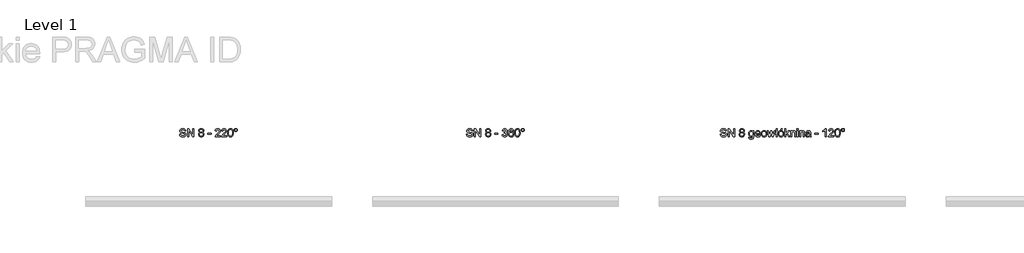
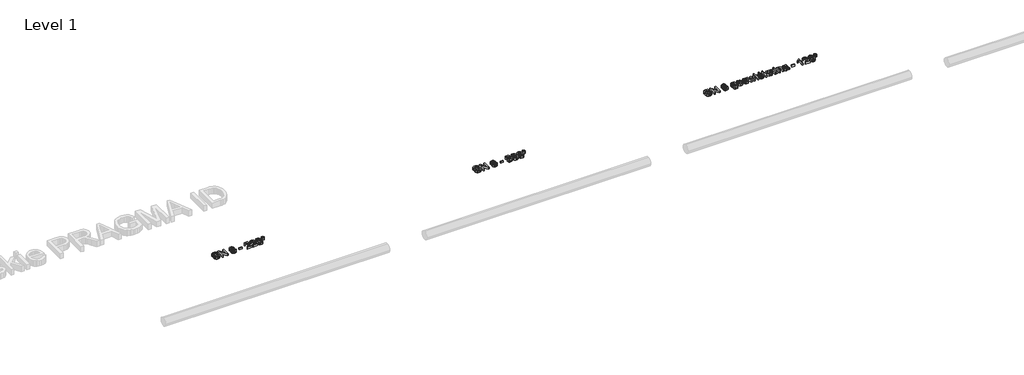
# One storey, part 6 of 10: 3 proxies.
"""IFC4 building model written with IfcOpenShell, lengths in millimetres."""

import ifcopenshell
import ifcopenshell.guid

model = None  # the IFC model being written
_history = None  # IfcOwnerHistory: only IFC2X3 demands one
_inside = {}  # id of a spatial element -> (the spatial element, [elements in it])
_under = {}  # id of a project, library or spatial element -> (it, [spatial elements below it])
_declared = {}  # id of a project -> (the project, [libraries it declares])
_typed = {}  # id of a type object -> (the type object, [elements of that type])
_made_of = {}  # id of a material, layer set ... -> (it, [elements and type objects made of it])


def new_model(schema):
    """Start an empty IFC model of exactly this schema.

    Asked for "IFC4X3", IfcOpenShell would pick the latest addendum, in which some entities
    have other attributes; the version numbers below select the first issue.
    IFC2X3 requires an IfcOwnerHistory on every rooted entity: one is made here for all.
    """
    global model, _history
    if schema == "IFC4X3":
        model = ifcopenshell.file(schema_version=(4, 3, 0, 0))
    else:
        model = ifcopenshell.file(schema=schema)
    _inside.clear()
    _under.clear()
    _declared.clear()
    _typed.clear()
    _made_of.clear()
    _history = None
    if model.schema == "IFC2X3":
        org = make("IfcOrganization", Name="unknown")
        user = make(
            "IfcPersonAndOrganization",
            ThePerson=make("IfcPerson", FamilyName="unknown"),
            TheOrganization=org,
        )
        app = make(
            "IfcApplication",
            ApplicationDeveloper=org,
            Version="unknown",
            ApplicationFullName="unknown",
            ApplicationIdentifier="unknown",
        )
        _history = make(
            "IfcOwnerHistory",
            OwningUser=user,
            OwningApplication=app,
            ChangeAction="ADDED",
            CreationDate=0,
        )
    return model


def make(cls, **values):
    """One entity of the class cls with the attributes given. An attribute that is None is left unset."""
    return model.create_entity(
        cls, **{name: value for name, value in values.items() if value is not None}
    )


def rooted(cls, **values):
    """An entity with a GlobalId (a new one), such as an element, a storey or a relation."""
    return make(cls, GlobalId=ifcopenshell.guid.new(), OwnerHistory=_history, **values)


def si_unit(unit_type, name, prefix=None):
    """IfcSIUnit, for example si_unit("LENGTHUNIT", "METRE", prefix="MILLI")."""
    return make("IfcSIUnit", UnitType=unit_type, Prefix=prefix, Name=name)


def assignment(units):
    """IfcUnitAssignment: the units of a project."""
    return None if units is None else make("IfcUnitAssignment", Units=units)


def point(xyz):
    """IfcCartesianPoint."""
    return None if xyz is None else make("IfcCartesianPoint", Coordinates=xyz)


def direction(xyz):
    """IfcDirection."""
    return None if xyz is None else make("IfcDirection", DirectionRatios=xyz)


def frame(location, z_axis=None, x_axis=None):
    """IfcAxis2Placement3D, a coordinate frame: its origin and axes. An axis left out is left unset."""
    return make(
        "IfcAxis2Placement3D",
        Location=point(location),
        Axis=direction(z_axis),
        RefDirection=direction(x_axis),
    )


def origin():
    """The frame at (0, 0, 0) with its axes left unset."""
    return frame((0.0, 0.0, 0.0))


def origin_with_axes():
    """The frame at (0, 0, 0) with the z axis (0, 0, 1) and the x axis (1, 0, 0) written out."""
    return frame((0.0, 0.0, 0.0), z_axis=(0.0, 0.0, 1.0), x_axis=(1.0, 0.0, 0.0))


def place(relative_to, where):
    """IfcLocalPlacement: puts the frame where relative to a parent placement (None: the world)."""
    return make(
        "IfcLocalPlacement", PlacementRelTo=relative_to, RelativePlacement=where
    )


def context(
    kind, dimensions, precision=None, world=None, true_north=None, identifier=None
):
    """IfcGeometricRepresentationContext, for example the 3D "Model" context."""
    return make(
        "IfcGeometricRepresentationContext",
        ContextIdentifier=identifier,
        ContextType=kind,
        CoordinateSpaceDimension=dimensions,
        Precision=precision,
        WorldCoordinateSystem=world,
        TrueNorth=true_north,
    )


def project(units=None, contexts=None):
    """IfcProject with its units and contexts."""
    return rooted(
        "IfcProject",
        Name="project",
        RepresentationContexts=contexts,
        UnitsInContext=assignment(units),
    )


def spatial(cls, under=None, at=None, **own):
    """A site, building, storey or space (cls), placed at a placement, below another one or the project."""
    s = rooted(cls, ObjectPlacement=at, **own)
    if under is not None:
        _under.setdefault(under.id(), (under, []))[1].append(s)
    return s


def polyline(points):
    """IfcPolyline through the points."""
    return make("IfcPolyline", Points=[point(p) for p in points])


def outline(outer, holes=None, kind="AREA"):
    """IfcArbitraryClosedProfileDef: a profile drawn as a closed curve; with holes, ...WithVoids."""
    if holes is None:
        return make("IfcArbitraryClosedProfileDef", ProfileType=kind, OuterCurve=outer)
    return make(
        "IfcArbitraryProfileDefWithVoids",
        ProfileType=kind,
        OuterCurve=outer,
        InnerCurves=holes,
    )


def extrude(swept, where, along, depth):
    """IfcExtrudedAreaSolid: the profile swept, set in the frame where, extruded along a direction by depth."""
    return make(
        "IfcExtrudedAreaSolid",
        SweptArea=swept,
        Position=where,
        ExtrudedDirection=direction(along),
        Depth=depth,
    )


def shape(context_of_items, identifier, shape_type, items):
    """IfcShapeRepresentation: the items that make up one representation, for example the "Body"."""
    return make(
        "IfcShapeRepresentation",
        ContextOfItems=context_of_items,
        RepresentationIdentifier=identifier,
        RepresentationType=shape_type,
        Items=items,
    )


def made_of(thing, what):
    """Note that an element or type object is made of a material, layer set ...; save() writes the relation."""
    if what is not None:
        _made_of.setdefault(what.id(), (what, []))[1].append(thing)
    return thing


def element(
    cls,
    number,
    at=None,
    inside=None,
    cuts=None,
    type_object=None,
    material=None,
    context=None,
    identifier="Body",
    shape_type=None,
    held_by="IfcProductDefinitionShape",
    body=None,
    shapes=None,
    **own,
):
    """One element of the class cls, such as IfcWall. Its Tag is "e" and its number.

    at: its placement. inside: the storey or other place that contains it. cuts: it is an
    opening in that element (IfcRelVoidsElement). A single representation is given by context,
    identifier, shape_type and body (its items); several are given by shapes. held_by: the class
    of the entity that holds the representations. save() writes the other relations.
    """
    e = rooted(cls, Tag="e%d" % number, ObjectPlacement=at, **own)
    if body is not None:
        shapes = [shape(context, identifier, shape_type, body)]
    if shapes is not None:
        e.Representation = make(held_by, Representations=shapes)
    if inside is not None:
        _inside.setdefault(inside.id(), (inside, []))[1].append(e)
    if cuts is not None:
        rooted(
            "IfcRelVoidsElement", RelatingBuildingElement=cuts, RelatedOpeningElement=e
        )
    if type_object is not None:
        _typed.setdefault(type_object.id(), (type_object, []))[1].append(e)
    return made_of(e, material)


def aggregate(whole, parts):
    """IfcRelAggregates: a whole, such as a stair, and the parts it consists of."""
    return rooted("IfcRelAggregates", RelatingObject=whole, RelatedObjects=parts)


def save(model, path):
    """Write the relations noted so far, then the file.

    IfcRelAggregates (storeys below a building ...), IfcRelContainedInSpatialStructure (elements
    in a storey), IfcRelDefinesByType, IfcRelAssociatesMaterial and IfcRelDeclares: one each for
    every whole, place, type object, material and project.
    """
    for whole, parts in _under.values():
        aggregate(whole, parts)
    for where, things in _inside.values():
        rooted(
            "IfcRelContainedInSpatialStructure",
            RelatedElements=things,
            RelatingStructure=where,
        )
    for kind, things in _typed.values():
        rooted("IfcRelDefinesByType", RelatedObjects=things, RelatingType=kind)
    for what, things in _made_of.values():
        rooted("IfcRelAssociatesMaterial", RelatedObjects=things, RelatingMaterial=what)
    for by, libraries in _declared.values():
        rooted("IfcRelDeclares", RelatingContext=by, RelatedDefinitions=libraries)
    model.write(path)


model = new_model("IFC4")

# Units and contexts
model_context = context("Model", 3, world=origin())
ifc_project = project(units=[si_unit("LENGTHUNIT", "METRE", prefix="MILLI")], contexts=[model_context])

# Site, building, storey
site = spatial("IfcSite", under=ifc_project)
building = spatial("IfcBuilding", under=site)
storey = spatial("IfcBuildingStorey", under=building, Name="Level 1", Elevation=0.0)

# Proxies
placement = place(None, origin())
element("IfcBuildingElementProxy", 1, Name="200mm Arial", ObjectType="200mm Arial", at=placement, inside=storey, context=model_context, shape_type="SweptSolid", body=[
    extrude(outline(polyline([(-7742.1398156, 2231.0128426), (-7717.0257381, 2231.0128426), (-7708.9323342, 2205.8742396), (-7700.8021421, 2196.983758), (-7689.1648083, 2189.9817374), (-7674.9400379, 2185.4383947), (-7659.0475357, 2183.9239472), (-7632.8052867, 2188.5102094), (-7615.8581894, 2201.1162991), (-7610.2909086, 2217.9652945), (-7614.4602379, 2233.6370675), (-7620.8123336, 2239.8358791), (-7631.5299624, 2245.0414093), (-7668.0974328, 2254.6308667), (-7707.4608062, 2267.0162272), (-7719.9626627, 2275.4652503), (-7728.8224874, 2285.7046325), (-7734.1015941, 2297.5136446), (-7735.8612963, 2310.6715573), (-7733.6846611, 2325.3807057), (-7727.1547557, 2339.0965728), (-7716.4432583, 2350.7216438), (-7701.7218471, 2359.1584042), (-7684.0512486, 2364.2903581), (-7664.4921892, 2366.0010093), (-7643.3021863, 2364.2106503), (-7624.7609337, 2358.8395732), (-7609.5306191, 2349.9981425), (-7598.2734301, 2337.796723), (-7591.1487821, 2322.9956041), (-7588.3160907, 2306.3550752), (-7613.4301683, 2306.3550752), (-7618.0409559, 2321.3401351), (-7627.6549387, 2332.1558658), (-7642.6767869, 2338.7041653), (-7663.5111705, 2340.8869318), (-7684.8360635, 2338.7286908), (-7699.4655042, 2332.2539676), (-7707.9267901, 2322.725824), (-7710.7472187, 2311.4073212), (-7708.7483932, 2301.7565502), (-7702.7519167, 2293.9942401), (-7688.5761971, 2287.0535332), (-7661.745337, 2279.9656734), (-7617.305192, 2267.3595837), (-7602.988451, 2258.2483729), (-7593.0004548, 2247.0034466), (-7587.132737, 2233.7474321), (-7585.176831, 2218.6029566), (-7587.4270426, 2203.121256), (-7594.1776772, 2188.5592603), (-7605.1528234, 2176.026747), (-7620.0765696, 2166.6334934), (-7638.0230796, 2160.7657756), (-7658.066517, 2158.8098696), (-7682.6716911, 2160.9190598), (-7702.923595, 2167.2466301), (-7719.0552205, 2177.8171061), (-7731.2995595, 2192.6550132), (-7739.1599715, 2210.7302819), (-7742.1398156, 2231.0128426)])), origin_with_axes(), (0.0, 0.0, 1.0), 50.0),
    extrude(outline(polyline([(-7547.5057147, 2161.9491293), (-7547.5057147, 2362.8617496), (-7520.6258036, 2362.8617496), (-7415.6568077, 2203.6914731), (-7415.6568077, 2362.8617496), (-7390.5427301, 2362.8617496), (-7390.5427301, 2161.9491293), (-7417.4226412, 2161.9491293), (-7522.3916372, 2321.1684569), (-7522.3916372, 2161.9491293), (-7547.5057147, 2161.9491293)])), origin_with_axes(), (0.0, 0.0, 1.0), 50.0),
    extrude(outline(polyline([(-7240.9373854, 2272.6080335), (-7254.3834723, 2279.2299094), (-7263.8196455, 2288.2062301), (-7269.3930577, 2299.3530545), (-7271.2508618, 2312.4864418), (-7267.2041599, 2332.1190776), (-7255.064054, 2348.3426736), (-7236.1917077, 2359.2319806), (-7211.9482842, 2362.8617496), (-7187.5577079, 2359.1461415), (-7168.4401069, 2347.999317), (-7156.0792719, 2331.5182037), (-7151.9589935, 2311.7997287), (-7153.7922721, 2299.0894058), (-7159.292108, 2288.1326537), (-7168.5198147, 2279.2115153), (-7181.5367059, 2272.6080335), (-7166.0795308, 2264.6433883), (-7154.8284731, 2252.914084), (-7147.9674739, 2237.9842064), (-7145.6804741, 2220.4178411), (-7150.2176854, 2196.4074096), (-7163.8293192, 2176.5663073), (-7184.8476439, 2163.2489791), (-7211.6049277, 2158.8098696), (-7238.3622115, 2163.2673732), (-7259.3805361, 2176.6398837), (-7272.9921699, 2196.6710583), (-7277.5293812, 2221.1045542), (-7275.150411, 2239.3515011), (-7268.0135003, 2254.3610865), (-7256.4865311, 2265.6182756), (-7240.9373854, 2272.6080335)]), holes=[polyline([(-7246.1367843, 2311.7506778), (-7243.9110982, 2300.7877943), (-7237.23404, 2292.0322028), (-7226.3018134, 2286.2932437), (-7211.3106221, 2284.3802573), (-7196.6689187, 2286.280981), (-7185.9022389, 2291.9831519), (-7179.280363, 2300.4444378), (-7177.0730711, 2310.6225063), (-7179.3539394, 2321.186851), (-7186.1965445, 2329.9240483), (-7197.1103771, 2335.7917662), (-7211.6049277, 2337.7476721), (-7226.1914488, 2335.8346857), (-7237.0868872, 2330.0957266), (-7243.87431, 2321.6834916), (-7246.1367843, 2311.7506778)]), polyline([(-7252.4153037, 2221.987471), (-7248.2214489, 2203.0783364), (-7242.4150448, 2194.9665384), (-7233.3835418, 2188.9271423), (-7211.4087239, 2183.9239472), (-7194.3144739, 2186.5543035), (-7181.487655, 2194.4453722), (-7173.4678275, 2206.3954057), (-7170.7945517, 2221.202656), (-7173.5536666, 2236.2612924), (-7181.8310115, 2248.4749746), (-7194.952136, 2256.5683785), (-7212.2425898, 2259.2661798), (-7229.0977165, 2256.6051667), (-7241.7957767, 2248.6221274), (-7249.7604219, 2236.6414371), (-7252.4153037, 2221.987471)])]), origin_with_axes(), (0.0, 0.0, 1.0), 50.0),
    extrude(outline(polyline([(-7051.5026834, 2221.5950635), (-7051.5026834, 2246.709141), (-6973.0211911, 2246.709141), (-6973.0211911, 2221.5950635), (-7051.5026834, 2221.5950635)])), origin_with_axes(), (0.0, 0.0, 1.0), 50.0),
    extrude(outline(polyline([(-6743.8552335, 2187.0632069), (-6743.8552335, 2161.9491293), (-6875.7041406, 2161.9491293), (-6873.0063393, 2179.2641086), (-6857.7514992, 2205.9232905), (-6826.3098514, 2235.0350191), (-6782.9488269, 2276.8754646), (-6774.8186348, 2291.2964388), (-6772.1085708, 2305.3250056), (-6774.6653506, 2317.9004385), (-6782.3356902, 2328.3544185), (-6794.1263082, 2335.3993587), (-6809.0439231, 2337.7476721), (-6824.7095647, 2335.454541), (-6836.8803274, 2328.5751477), (-6844.734608, 2317.6490524), (-6847.4508034, 2303.2158155), (-6872.5648809, 2306.3550752), (-6866.4764339, 2330.6475496), (-6853.3123898, 2348.3917245), (-6833.7594618, 2359.2442434), (-6808.5043628, 2362.8617496), (-6783.0653229, 2358.8395732), (-6763.549183, 2346.7730437), (-6751.1331657, 2328.746826), (-6746.9944932, 2306.8455845), (-6751.4581281, 2283.0313567), (-6766.2960352, 2258.4077885), (-6802.2748944, 2223.9985592), (-6831.1658937, 2199.8409748), (-6842.4966592, 2187.0632069), (-6743.8552335, 2187.0632069)])), origin_with_axes(), (0.0, 0.0, 1.0), 50.0),
    extrude(outline(polyline([(-6590.0315086, 2187.0632069), (-6590.0315086, 2161.9491293), (-6721.8804157, 2161.9491293), (-6719.1826144, 2179.2641086), (-6703.9277743, 2205.9232905), (-6672.4861265, 2235.0350191), (-6629.125102, 2276.8754646), (-6620.9949099, 2291.2964388), (-6618.2848458, 2305.3250056), (-6620.8416257, 2317.9004385), (-6628.5119653, 2328.3544185), (-6640.3025833, 2335.3993587), (-6655.2201982, 2337.7476721), (-6670.8858398, 2335.454541), (-6683.0566025, 2328.5751477), (-6690.9108831, 2317.6490524), (-6693.6270785, 2303.2158155), (-6718.741156, 2306.3550752), (-6712.652709, 2330.6475496), (-6699.4886649, 2348.3917245), (-6679.9357369, 2359.2442434), (-6654.6806379, 2362.8617496), (-6629.2415979, 2358.8395732), (-6609.7254581, 2346.7730437), (-6597.3094408, 2328.746826), (-6593.1707683, 2306.8455845), (-6597.6344032, 2283.0313567), (-6612.4723103, 2258.4077885), (-6648.4511695, 2223.9985592), (-6677.3421688, 2199.8409748), (-6688.6729343, 2187.0632069), (-6590.0315086, 2187.0632069)])), origin_with_axes(), (0.0, 0.0, 1.0), 50.0),
    extrude(outline(polyline([(-6564.9174311, 2260.7867587), (-6563.0718897, 2292.9457765), (-6557.5352657, 2318.5932829), (-6548.3627413, 2338.1216855), (-6535.6094988, 2351.9233917), (-6519.1835677, 2360.1271601), (-6498.9929775, 2362.8617496), (-6483.5174083, 2361.2430689), (-6469.6605198, 2356.3870265), (-6458.0722369, 2348.483695), (-6449.4024846, 2337.7231466), (-6437.6302608, 2307.9982814), (-6433.068524, 2260.7867587), (-6434.8956713, 2228.811682), (-6440.377113, 2203.2254892), (-6449.4944551, 2183.6786925), (-6462.2293035, 2169.821804), (-6478.6920228, 2161.5628532), (-6498.9929775, 2158.8098696), (-6525.0880737, 2163.5923356), (-6544.9046505, 2177.9397334), (-6553.660242, 2193.0688805), (-6559.9142359, 2211.919767), (-6564.9174311, 2260.7867587)]), holes=[polyline([(-6539.8033535, 2260.8358096), (-6536.8602976, 2221.3314147), (-6528.0311297, 2198.4675487), (-6514.8854797, 2187.5598476), (-6498.9929775, 2183.9239472), (-6483.1004754, 2187.5721103), (-6469.9548254, 2198.5165997), (-6461.1256575, 2221.3927284), (-6458.1826015, 2260.8358096), (-6461.0275556, 2299.4511564), (-6469.5624179, 2322.492832), (-6482.6835424, 2333.9339621), (-6499.2872831, 2337.7476721), (-6515.0081071, 2334.3876832), (-6527.6387222, 2324.3077165), (-6536.7621957, 2299.8313011), (-6539.8033535, 2260.8358096)])]), origin_with_axes(), (0.0, 0.0, 1.0), 50.0),
    extrude(outline(polyline([(-6404.8151868, 2328.378944), (-6402.0499405, 2342.8612318), (-6393.7542015, 2355.0136004), (-6381.5834388, 2363.2541571), (-6367.1931214, 2366.0010093), (-6352.6372571, 2363.2541571), (-6340.4603631, 2355.0136004), (-6332.2198064, 2342.8612318), (-6329.4729542, 2328.378944), (-6332.2382005, 2313.9150502), (-6340.5339395, 2301.719762), (-6352.7292276, 2293.4240231), (-6367.1931214, 2290.6587767), (-6381.5834388, 2293.405629), (-6393.7542015, 2301.6461856), (-6402.0499405, 2313.8230797), (-6404.8151868, 2328.378944)]), holes=[polyline([(-6389.1188883, 2328.329893), (-6387.5063389, 2319.8808699), (-6382.6686907, 2312.7807474), (-6375.5501741, 2307.9614932), (-6367.0950195, 2306.3550752), (-6358.7134414, 2307.9614932), (-6351.6194503, 2312.7807474), (-6346.781802, 2319.8808699), (-6345.1692526, 2328.329893), (-6346.781802, 2336.7789162), (-6351.6194503, 2343.8790387), (-6358.7134414, 2348.6982928), (-6367.0950195, 2350.3047109), (-6375.5501741, 2348.6982928), (-6382.6686907, 2343.8790387), (-6387.5063389, 2336.7789162), (-6389.1188883, 2328.329893)])]), origin_with_axes(), (0.0, 0.0, 1.0), 50.0),
])
element("IfcBuildingElementProxy", 2, Name="200mm Arial", ObjectType="200mm Arial", at=placement, inside=storey, context=model_context, shape_type="SweptSolid", body=[
    extrude(outline(polyline([(-742.1398156, 2231.0128426), (-717.0257381, 2231.0128426), (-708.9323342, 2205.8742396), (-700.8021421, 2196.983758), (-689.1648083, 2189.9817374), (-674.9400379, 2185.4383947), (-659.0475357, 2183.9239472), (-632.8052867, 2188.5102094), (-615.8581894, 2201.1162991), (-610.2909086, 2217.9652945), (-614.4602379, 2233.6370675), (-620.8123336, 2239.8358791), (-631.5299624, 2245.0414093), (-668.0974328, 2254.6308667), (-707.4608062, 2267.0162272), (-719.9626627, 2275.4652503), (-728.8224874, 2285.7046325), (-734.1015941, 2297.5136446), (-735.8612963, 2310.6715573), (-733.6846611, 2325.3807057), (-727.1547557, 2339.0965728), (-716.4432583, 2350.7216438), (-701.7218471, 2359.1584042), (-684.0512486, 2364.2903581), (-664.4921892, 2366.0010093), (-643.3021863, 2364.2106503), (-624.7609337, 2358.8395732), (-609.5306191, 2349.9981425), (-598.2734301, 2337.796723), (-591.1487821, 2322.9956041), (-588.3160907, 2306.3550752), (-613.4301683, 2306.3550752), (-618.0409559, 2321.3401351), (-627.6549387, 2332.1558658), (-642.6767869, 2338.7041653), (-663.5111705, 2340.8869318), (-684.8360635, 2338.7286908), (-699.4655042, 2332.2539676), (-707.9267901, 2322.725824), (-710.7472187, 2311.4073212), (-708.7483932, 2301.7565502), (-702.7519167, 2293.9942401), (-688.5761971, 2287.0535332), (-661.745337, 2279.9656734), (-617.305192, 2267.3595837), (-602.988451, 2258.2483729), (-593.0004548, 2247.0034466), (-587.132737, 2233.7474321), (-585.176831, 2218.6029566), (-587.4270426, 2203.121256), (-594.1776772, 2188.5592603), (-605.1528234, 2176.026747), (-620.0765696, 2166.6334934), (-638.0230796, 2160.7657756), (-658.066517, 2158.8098696), (-682.6716911, 2160.9190598), (-702.923595, 2167.2466301), (-719.0552205, 2177.8171061), (-731.2995595, 2192.6550132), (-739.1599715, 2210.7302819), (-742.1398156, 2231.0128426)])), origin_with_axes(), (0.0, 0.0, 1.0), 50.0),
    extrude(outline(polyline([(-547.5057147, 2161.9491293), (-547.5057147, 2362.8617496), (-520.6258036, 2362.8617496), (-415.6568077, 2203.6914731), (-415.6568077, 2362.8617496), (-390.5427301, 2362.8617496), (-390.5427301, 2161.9491293), (-417.4226412, 2161.9491293), (-522.3916372, 2321.1684569), (-522.3916372, 2161.9491293), (-547.5057147, 2161.9491293)])), origin_with_axes(), (0.0, 0.0, 1.0), 50.0),
    extrude(outline(polyline([(-240.9373854, 2272.6080335), (-254.3834723, 2279.2299094), (-263.8196455, 2288.2062301), (-269.3930577, 2299.3530545), (-271.2508618, 2312.4864418), (-267.2041599, 2332.1190776), (-255.064054, 2348.3426736), (-236.1917077, 2359.2319806), (-211.9482842, 2362.8617496), (-187.5577079, 2359.1461415), (-168.4401069, 2347.999317), (-156.0792719, 2331.5182037), (-151.9589935, 2311.7997287), (-153.7922721, 2299.0894058), (-159.292108, 2288.1326537), (-168.5198147, 2279.2115153), (-181.5367059, 2272.6080335), (-166.0795308, 2264.6433883), (-154.8284731, 2252.914084), (-147.9674739, 2237.9842064), (-145.6804741, 2220.4178411), (-150.2176854, 2196.4074096), (-163.8293192, 2176.5663073), (-184.8476439, 2163.2489791), (-211.6049277, 2158.8098696), (-238.3622115, 2163.2673732), (-259.3805361, 2176.6398837), (-272.9921699, 2196.6710583), (-277.5293812, 2221.1045542), (-275.150411, 2239.3515011), (-268.0135003, 2254.3610865), (-256.4865311, 2265.6182756), (-240.9373854, 2272.6080335)]), holes=[polyline([(-246.1367843, 2311.7506778), (-243.9110982, 2300.7877943), (-237.23404, 2292.0322028), (-226.3018134, 2286.2932437), (-211.3106221, 2284.3802573), (-196.6689187, 2286.280981), (-185.9022389, 2291.9831519), (-179.280363, 2300.4444378), (-177.0730711, 2310.6225063), (-179.3539394, 2321.186851), (-186.1965445, 2329.9240483), (-197.1103771, 2335.7917662), (-211.6049277, 2337.7476721), (-226.1914488, 2335.8346857), (-237.0868872, 2330.0957266), (-243.87431, 2321.6834916), (-246.1367843, 2311.7506778)]), polyline([(-252.4153037, 2221.987471), (-248.2214489, 2203.0783364), (-242.4150448, 2194.9665384), (-233.3835418, 2188.9271423), (-211.4087239, 2183.9239472), (-194.3144739, 2186.5543035), (-181.487655, 2194.4453722), (-173.4678275, 2206.3954057), (-170.7945517, 2221.202656), (-173.5536666, 2236.2612924), (-181.8310115, 2248.4749746), (-194.952136, 2256.5683785), (-212.2425898, 2259.2661798), (-229.0977165, 2256.6051667), (-241.7957767, 2248.6221274), (-249.7604219, 2236.6414371), (-252.4153037, 2221.987471)])]), origin_with_axes(), (0.0, 0.0, 1.0), 50.0),
    extrude(outline(polyline([(-51.5026834, 2221.5950635), (-51.5026834, 2246.709141), (26.9788089, 2246.709141), (26.9788089, 2221.5950635), (-51.5026834, 2221.5950635)])), origin_with_axes(), (0.0, 0.0, 1.0), 50.0),
    extrude(outline(polyline([(127.4351191, 2215.3165441), (152.5491966, 2218.4558038), (158.1716598, 2202.6736662), (166.4060851, 2192.0173511), (177.6571428, 2185.9472982), (192.329503, 2183.9239472), (209.5463804, 2186.7075876), (222.8391832, 2195.0585089), (231.3372573, 2207.5174458), (234.1699486, 2222.6251331), (231.3617827, 2236.9663995), (222.937285, 2248.5976019), (210.1840425, 2256.3047297), (194.3896422, 2258.8737723), (176.7803574, 2256.1269201), (179.5762605, 2281.2409976), (183.598437, 2280.946692), (198.6448106, 2282.7493138), (212.0970289, 2288.1571792), (221.5883844, 2297.3051781), (224.7521695, 2310.3282007), (222.4590384, 2321.1745882), (215.5796451, 2329.9730993), (205.0827455, 2335.8040289), (191.9370956, 2337.7476721), (178.7669201, 2335.7856348), (168.0002404, 2329.8995229), (160.1398285, 2320.0893363), (155.6884563, 2306.3550752), (130.5743788, 2309.4943349), (137.9688069, 2332.0455012), (151.1267196, 2348.8822338), (169.1284119, 2359.3668707), (191.0541788, 2362.8617496), (206.8424477, 2361.1388356), (221.3431297, 2355.9700936), (233.5690747, 2347.815376), (242.5331326, 2337.1345354), (248.0329685, 2324.8288827), (249.8662471, 2311.7997287), (248.124939, 2299.6596229), (242.9010146, 2288.6476885), (234.2680505, 2279.2666976), (222.2996229, 2272.0194223), (238.0204468, 2265.6673265), (249.6700433, 2254.8515959), (256.8805305, 2240.1608415), (259.2840262, 2222.1836747), (254.4770348, 2197.7072593), (240.0560605, 2177.2530203), (218.2897092, 2163.4206573), (191.4465862, 2158.8098696), (167.1663746, 2162.746207), (147.3988487, 2174.555219), (133.6523248, 2192.618225), (127.4351191, 2215.3165441)])), origin_with_axes(), (0.0, 0.0, 1.0), 50.0),
    extrude(outline(polyline([(409.9684914, 2309.4943349), (384.8544138, 2306.3550752), (375.3385329, 2327.2998234), (363.9464538, 2335.1357099), (350.1754044, 2337.7476721), (327.5138735, 2331.6653565), (318.0777004, 2322.057505), (310.3705726, 2308.8321473), (305.1650423, 2290.1253478), (303.2336618, 2264.0731712), (313.3074971, 2275.8270009), (325.380158, 2284.1104772), (338.7771939, 2289.0217018), (352.8241548, 2290.6587767), (376.025246, 2286.1828791), (395.4984662, 2272.7551863), (408.7054299, 2252.2396337), (413.1077511, 2226.5001568), (411.0353492, 2208.5168586), (404.8181434, 2191.8456728), (394.9711687, 2177.7067415), (382.0094597, 2167.3202065), (366.5216278, 2160.9374539), (349.0962839, 2158.8098696), (320.6038234, 2164.4507269), (297.9116356, 2181.3732987), (289.2526132, 2194.4821604), (283.0675971, 2211.2453167), (278.1195843, 2255.7345126), (283.6132888, 2305.7542013), (290.4804193, 2324.8319484), (300.0944022, 2339.9549641), (310.5146597, 2349.9766828), (322.5965175, 2357.1350532), (351.7450343, 2362.8617496), (373.7811658, 2359.3178198), (391.4272388, 2348.6860301), (403.7880739, 2331.8002465), (409.9684914, 2309.4943349)]), holes=[polyline([(303.2336618, 2226.8925642), (309.0461974, 2205.1384756), (324.4972412, 2189.3440752), (347.1342466, 2183.9239472), (363.7073305, 2186.7321131), (376.7364845, 2195.1566108), (385.1793763, 2208.4003626), (387.9936735, 2225.6662909), (385.2161645, 2242.2393748), (376.8836373, 2254.8761213), (363.6337541, 2262.8775547), (346.104177, 2265.5446992), (329.5556186, 2262.8775547), (315.7171242, 2254.8761213), (306.3545274, 2242.5459431), (303.2336618, 2226.8925642)])]), origin_with_axes(), (0.0, 0.0, 1.0), 50.0),
    extrude(outline(polyline([(435.0825689, 2260.7867587), (436.9281103, 2292.9457765), (442.4647343, 2318.5932829), (451.6372587, 2338.1216855), (464.3905012, 2351.9233917), (480.8164323, 2360.1271601), (501.0070225, 2362.8617496), (516.4825917, 2361.2430689), (530.3394802, 2356.3870265), (541.9277631, 2348.483695), (550.5975154, 2337.7231466), (562.3697392, 2307.9982814), (566.931476, 2260.7867587), (565.1043287, 2228.811682), (559.622887, 2203.2254892), (550.5055449, 2183.6786925), (537.7706965, 2169.821804), (521.3079772, 2161.5628532), (501.0070225, 2158.8098696), (474.9119263, 2163.5923356), (455.0953495, 2177.9397334), (446.339758, 2193.0688805), (440.0857641, 2211.919767), (435.0825689, 2260.7867587)]), holes=[polyline([(460.1966465, 2260.8358096), (463.1397024, 2221.3314147), (471.9688703, 2198.4675487), (485.1145203, 2187.5598476), (501.0070225, 2183.9239472), (516.8995246, 2187.5721103), (530.0451746, 2198.5165997), (538.8743425, 2221.3927284), (541.8173985, 2260.8358096), (538.9724444, 2299.4511564), (530.4375821, 2322.492832), (517.3164576, 2333.9339621), (500.7127169, 2337.7476721), (484.9918929, 2334.3876832), (472.3612778, 2324.3077165), (463.2378043, 2299.8313011), (460.1966465, 2260.8358096)])]), origin_with_axes(), (0.0, 0.0, 1.0), 50.0),
    extrude(outline(polyline([(595.1848132, 2328.378944), (597.9500595, 2342.8612318), (606.2457985, 2355.0136004), (618.4165612, 2363.2541571), (632.8068786, 2366.0010093), (647.3627429, 2363.2541571), (659.5396369, 2355.0136004), (667.7801936, 2342.8612318), (670.5270458, 2328.378944), (667.7617995, 2313.9150502), (659.4660605, 2301.719762), (647.2707724, 2293.4240231), (632.8068786, 2290.6587767), (618.4165612, 2293.405629), (606.2457985, 2301.6461856), (597.9500595, 2313.8230797), (595.1848132, 2328.378944)]), holes=[polyline([(610.8811117, 2328.329893), (612.4936611, 2319.8808699), (617.3313093, 2312.7807474), (624.4498259, 2307.9614932), (632.9049805, 2306.3550752), (641.2865586, 2307.9614932), (648.3805497, 2312.7807474), (653.218198, 2319.8808699), (654.8307474, 2328.329893), (653.218198, 2336.7789162), (648.3805497, 2343.8790387), (641.2865586, 2348.6982928), (632.9049805, 2350.3047109), (624.4498259, 2348.6982928), (617.3313093, 2343.8790387), (612.4936611, 2336.7789162), (610.8811117, 2328.329893)])]), origin_with_axes(), (0.0, 0.0, 1.0), 50.0),
])
element("IfcBuildingElementProxy", 3, Name="200mm Arial", ObjectType="200mm Arial", at=placement, inside=storey, context=model_context, shape_type="SweptSolid", body=[
    extrude(outline(polyline([(5447.9311838, 2231.0128426), (5473.0452613, 2231.0128426), (5481.1386652, 2205.8742396), (5489.2688573, 2196.983758), (5500.9061911, 2189.9817374), (5515.1309616, 2185.4383947), (5531.0234637, 2183.9239472), (5557.2657127, 2188.5102094), (5574.21281, 2201.1162991), (5579.7800908, 2217.9652945), (5575.6107616, 2233.6370675), (5569.2586658, 2239.8358791), (5558.541037, 2245.0414093), (5521.9735667, 2254.6308667), (5482.6101932, 2267.0162272), (5470.1083367, 2275.4652503), (5461.248512, 2285.7046325), (5455.9694054, 2297.5136446), (5454.2097032, 2310.6715573), (5456.3863383, 2325.3807057), (5462.9162437, 2339.0965728), (5473.6277411, 2350.7216438), (5488.3491523, 2359.1584042), (5506.0197508, 2364.2903581), (5525.5788102, 2366.0010093), (5546.7688131, 2364.2106503), (5565.3100657, 2358.8395732), (5580.5403803, 2349.9981425), (5591.7975694, 2337.796723), (5598.9222173, 2322.9956041), (5601.7549087, 2306.3550752), (5576.6408312, 2306.3550752), (5572.0300435, 2321.3401351), (5562.4160607, 2332.1558658), (5547.3942125, 2338.7041653), (5526.5598289, 2340.8869318), (5505.2349359, 2338.7286908), (5490.6054952, 2332.2539676), (5482.1442093, 2322.725824), (5479.3237807, 2311.4073212), (5481.3226062, 2301.7565502), (5487.3190827, 2293.9942401), (5501.4948023, 2287.0535332), (5528.3256625, 2279.9656734), (5572.7658075, 2267.3595837), (5587.0825484, 2258.2483729), (5597.0705446, 2247.0034466), (5602.9382624, 2233.7474321), (5604.8941684, 2218.6029566), (5602.6439568, 2203.121256), (5595.8933222, 2188.5592603), (5584.918176, 2176.026747), (5569.9944298, 2166.6334934), (5552.0479198, 2160.7657756), (5532.0044824, 2158.8098696), (5507.3993083, 2160.9190598), (5487.1474045, 2167.2466301), (5471.015779, 2177.8171061), (5458.7714399, 2192.6550132), (5450.9110279, 2210.7302819), (5447.9311838, 2231.0128426)])), origin_with_axes(), (0.0, 0.0, 1.0), 50.0),
    extrude(outline(polyline([(5642.5652847, 2161.9491293), (5642.5652847, 2362.8617496), (5669.4451958, 2362.8617496), (5774.4141918, 2203.6914731), (5774.4141918, 2362.8617496), (5799.5282693, 2362.8617496), (5799.5282693, 2161.9491293), (5772.6483582, 2161.9491293), (5667.6793622, 2321.1684569), (5667.6793622, 2161.9491293), (5642.5652847, 2161.9491293)])), origin_with_axes(), (0.0, 0.0, 1.0), 50.0),
    extrude(outline(polyline([(5949.133614, 2272.6080335), (5935.6875271, 2279.2299094), (5926.2513539, 2288.2062301), (5920.6779417, 2299.3530545), (5918.8201376, 2312.4864418), (5922.8668395, 2332.1190776), (5935.0069454, 2348.3426736), (5953.8792917, 2359.2319806), (5978.1227152, 2362.8617496), (6002.5132915, 2359.1461415), (6021.6308925, 2347.999317), (6033.9917276, 2331.5182037), (6038.1120059, 2311.7997287), (6036.2787273, 2299.0894058), (6030.7788915, 2288.1326537), (6021.5511848, 2279.2115153), (6008.5342935, 2272.6080335), (6023.9914687, 2264.6433883), (6035.2425263, 2252.914084), (6042.1035255, 2237.9842064), (6044.3905253, 2220.4178411), (6039.853314, 2196.4074096), (6026.2416802, 2176.5663073), (6005.2233555, 2163.2489791), (5978.4660717, 2158.8098696), (5951.708788, 2163.2673732), (5930.6904633, 2176.6398837), (5917.0788295, 2196.6710583), (5912.5416182, 2221.1045542), (5914.9205884, 2239.3515011), (5922.0574992, 2254.3610865), (5933.5844683, 2265.6182756), (5949.133614, 2272.6080335)]), holes=[polyline([(5943.9342151, 2311.7506778), (5946.1599012, 2300.7877943), (5952.8369594, 2292.0322028), (5963.769186, 2286.2932437), (5978.7603773, 2284.3802573), (5993.4020808, 2286.280981), (6004.1687605, 2291.9831519), (6010.7906364, 2300.4444378), (6012.9979284, 2310.6225063), (6010.71706, 2321.186851), (6003.8744549, 2329.9240483), (5992.9606224, 2335.7917662), (5978.4660717, 2337.7476721), (5963.8795506, 2335.8346857), (5952.9841122, 2330.0957266), (5946.1966894, 2321.6834916), (5943.9342151, 2311.7506778)]), polyline([(5937.6556958, 2221.987471), (5941.8495505, 2203.0783364), (5947.6559547, 2194.9665384), (5956.6874576, 2188.9271423), (5978.6622755, 2183.9239472), (5995.7565255, 2186.5543035), (6008.5833444, 2194.4453722), (6016.6031719, 2206.3954057), (6019.2764477, 2221.202656), (6016.5173328, 2236.2612924), (6008.2399879, 2248.4749746), (5995.1188634, 2256.5683785), (5977.8284096, 2259.2661798), (5960.9732829, 2256.6051667), (5948.2752227, 2248.6221274), (5940.3105775, 2236.6414371), (5937.6556958, 2221.987471)])]), origin_with_axes(), (0.0, 0.0, 1.0), 50.0),
    extrude(outline(polyline([(6144.8468354, 2149.3920906), (6169.960913, 2146.2528309), (6172.7322907, 2138.4046817), (6178.1033678, 2133.0090791), (6188.6615811, 2128.8152243), (6202.4816813, 2127.4172727), (6217.2214866, 2128.9991653), (6228.1843701, 2133.744843), (6235.7872646, 2141.3477376), (6240.4471032, 2151.5012807), (6242.1638859, 2180.7846875), (6224.4810247, 2166.6580189), (6202.9231397, 2161.9491293), (6177.0303786, 2167.4305711), (6157.7227053, 2183.8748963), (6145.7113581, 2207.9834297), (6141.7075757, 2236.4574961), (6143.5040662, 2256.7339254), (6148.8935374, 2275.3794112), (6157.6859171, 2291.1799429), (6169.6911328, 2302.9215099), (6184.4983831, 2310.2055734), (6201.6968664, 2312.6335946), (6224.1008799, 2307.1398901), (6242.1638859, 2290.6587767), (6242.1638859, 2309.4943349), (6267.2779634, 2309.4943349), (6267.2779634, 2182.1090627), (6265.5611808, 2152.6968972), (6260.4108329, 2133.3279101), (6251.5387454, 2120.4826971), (6238.6567442, 2110.6418537), (6222.0468721, 2104.3878598), (6201.991172, 2102.3031952), (6178.624534, 2105.2401198), (6160.2243028, 2114.0508936), (6148.4214222, 2128.760042), (6144.8468354, 2149.3920906)]), holes=[polyline([(6166.8216533, 2238.1742787), (6169.5010605, 2215.1387345), (6177.5392821, 2199.3014146), (6189.6242056, 2190.1227588), (6204.4437187, 2187.0632069), (6219.1528671, 2190.1043647), (6231.2991043, 2199.2278382), (6239.4476905, 2214.862823), (6242.1638859, 2237.4385148), (6239.3679827, 2259.2109975), (6230.9802732, 2274.8889019), (6218.6562264, 2284.3618632), (6204.0513112, 2287.519517), (6189.7100447, 2284.4109142), (6177.6864349, 2275.0851056), (6169.5378487, 2259.6401932), (6166.8216533, 2238.1742787)])]), origin_with_axes(), (0.0, 0.0, 1.0), 50.0),
    extrude(outline(polyline([(6408.250344, 2205.898765), (6432.8739122, 2202.7595053), (6424.0018247, 2184.2059901), (6409.8444993, 2170.3368388), (6390.7207669, 2161.6916119), (6366.9494587, 2158.8098696), (6337.4821108, 2163.782408), (6314.8083172, 2178.7000229), (6300.3505548, 2202.5939584), (6295.5313007, 2234.4954588), (6300.3996057, 2267.4699483), (6315.0045209, 2292.1303047), (6337.3717462, 2307.5077721), (6365.5269816, 2312.6335946), (6392.8054315, 2307.5200348), (6414.6024398, 2292.1793556), (6428.8946553, 2267.5680502), (6433.6587271, 2234.6426116), (6433.5115743, 2227.8735829), (6320.6453782, 2227.8735829), (6324.9925171, 2209.0748129), (6335.0908779, 2195.2547126), (6349.6651362, 2186.7566385), (6367.439968, 2183.9239472), (6392.0635362, 2189.172397), (6401.2115351, 2195.9782139), (6408.250344, 2205.898765)]), holes=[polyline([(6320.6453782, 2252.9876604), (6408.5446496, 2252.9876604), (6405.1478725, 2266.2559377), (6398.4892084, 2275.7472932), (6383.847505, 2284.5764611), (6365.4288797, 2287.519517), (6348.5001766, 2285.1712036), (6334.5022667, 2278.1262634), (6324.7717879, 2267.1449859), (6320.6453782, 2252.9876604)])]), origin_with_axes(), (0.0, 0.0, 1.0), 50.0),
    extrude(outline(polyline([(6452.4942853, 2235.7217321), (6457.9266761, 2271.295921), (6464.7171646, 2285.119087), (6474.2238484, 2296.299634), (6494.3592563, 2308.5501044), (6518.4677897, 2312.6335946), (6544.8510602, 2307.6610563), (6565.9245671, 2292.7434414), (6579.738536, 2269.0579722), (6584.3431923, 2237.7818713), (6582.3075786, 2212.4102763), (6576.2007375, 2193.0964716), (6566.2004786, 2178.6325778), (6552.4846116, 2167.8107158), (6536.1935705, 2161.0600812), (6518.4677897, 2158.8098696), (6491.7656883, 2163.7640139), (6470.7167068, 2178.6264465), (6457.0498906, 2202.8085563), (6452.4942853, 2235.7217321)]), holes=[polyline([(6477.6083628, 2235.770783), (6480.5146306, 2213.0418071), (6489.2334339, 2196.848868), (6502.3545583, 2187.1551774), (6518.4677897, 2183.9239472), (6534.5074447, 2187.1735715), (6547.6040438, 2196.9224443), (6556.322847, 2213.3299813), (6559.2291148, 2236.555598), (6556.3044529, 2258.6223863), (6547.5304674, 2274.5945963), (6534.4154742, 2284.2882868), (6518.4677897, 2287.519517), (6502.3545583, 2284.3005496), (6489.2334339, 2274.6436472), (6480.5146306, 2258.4874962), (6477.6083628, 2235.770783)])]), origin_with_axes(), (0.0, 0.0, 1.0), 50.0),
    extrude(outline(polyline([(6637.072945, 2161.9491293), (6592.1913416, 2309.4943349), (6618.2864378, 2309.4943349), (6643.7438718, 2223.409948), (6651.3467664, 2192.6550132), (6657.5762348, 2222.2817766), (6677.83427, 2309.4943349), (6707.755339, 2309.4943349), (6727.9152723, 2222.5270312), (6733.4580277, 2195.696171), (6741.4042788, 2223.9985592), (6766.9107638, 2309.4943349), (6793.1039619, 2309.4943349), (6747.8790019, 2161.9491293), (6717.5164746, 2161.9491293), (6698.239458, 2248.4749746), (6692.6476517, 2275.4529876), (6667.7788288, 2161.9491293), (6637.072945, 2161.9491293)])), origin_with_axes(), (0.0, 0.0, 1.0), 50.0),
    extrude(outline(polyline([(6810.3698902, 2241.3625894), (6791.534332, 2226.303953), (6791.534332, 2254.5572903), (6810.3698902, 2269.6159266), (6810.3698902, 2362.8617496), (6835.4839677, 2362.8617496), (6835.4839677, 2289.726809), (6854.3195259, 2304.7854453), (6854.3195259, 2276.5321081), (6835.4839677, 2261.4734718), (6835.4839677, 2161.9491293), (6810.3698902, 2161.9491293), (6810.3698902, 2241.3625894)])), origin_with_axes(), (0.0, 0.0, 1.0), 50.0),
    extrude(outline(polyline([(6913.96546, 2325.1906333), (6932.8010182, 2362.8617496), (6964.1936151, 2362.8617496), (6932.8010182, 2325.1906333), (6913.96546, 2325.1906333)])), origin_with_axes(), (0.0, 0.0, 1.0), 50.0),
    extrude(outline(polyline([(6866.8765646, 2235.7217321), (6872.3089554, 2271.295921), (6879.0994439, 2285.119087), (6888.6061278, 2296.299634), (6908.7415357, 2308.5501044), (6932.8500691, 2312.6335946), (6959.2333395, 2307.6610563), (6980.3068465, 2292.7434414), (6994.1208154, 2269.0579722), (6998.7254717, 2237.7818713), (6996.689858, 2212.4102763), (6990.5830169, 2193.0964716), (6980.582758, 2178.6325778), (6966.8668909, 2167.8107158), (6950.5758499, 2161.0600812), (6932.8500691, 2158.8098696), (6906.1479676, 2163.7640139), (6885.0989861, 2178.6264465), (6871.43217, 2202.8085563), (6866.8765646, 2235.7217321)]), holes=[polyline([(6891.9906422, 2235.770783), (6894.8969099, 2213.0418071), (6903.6157132, 2196.848868), (6916.7368377, 2187.1551774), (6932.8500691, 2183.9239472), (6948.8897241, 2187.1735715), (6961.9863231, 2196.9224443), (6970.7051264, 2213.3299813), (6973.6113942, 2236.555598), (6970.6867323, 2258.6223863), (6961.9127467, 2274.5945963), (6948.7977536, 2284.2882868), (6932.8500691, 2287.519517), (6916.7368377, 2284.3005496), (6903.6157132, 2274.6436472), (6894.8969099, 2258.4874962), (6891.9906422, 2235.770783)])]), origin_with_axes(), (0.0, 0.0, 1.0), 50.0),
    extrude(outline(polyline([(7026.9788089, 2161.9491293), (7026.9788089, 2362.8617496), (7052.0928865, 2362.8617496), (7052.0928865, 2254.9006468), (7108.4033572, 2309.4943349), (7143.1314175, 2309.4943349), (7086.1342338, 2254.2139337), (7146.2706772, 2161.9491293), (7116.9382195, 2161.9491293), (7068.1325415, 2236.7518017), (7052.0928865, 2221.202656), (7052.0928865, 2161.9491293), (7026.9788089, 2161.9491293)])), origin_with_axes(), (0.0, 0.0, 1.0), 50.0),
    extrude(outline(polyline([(7168.2454951, 2161.9491293), (7168.2454951, 2309.4943349), (7193.3595726, 2309.4943349), (7193.3595726, 2288.8929431), (7202.0845073, 2299.2794781), (7212.5630128, 2306.6984317), (7224.7950891, 2311.1498039), (7238.7807363, 2312.6335946), (7262.4968622, 2307.8511286), (7278.68367, 2295.2940899), (7286.2129882, 2276.8264137), (7287.5373634, 2252.546202), (7287.5373634, 2161.9491293), (7262.4232858, 2161.9491293), (7262.4232858, 2249.1616877), (7259.5292808, 2271.3817602), (7249.3021614, 2283.1294586), (7232.0607585, 2287.519517), (7217.3516101, 2285.0547077), (7204.8129654, 2277.6602796), (7196.2229208, 2263.3741954), (7193.3595726, 2240.2344179), (7193.3595726, 2161.9491293), (7168.2454951, 2161.9491293)])), origin_with_axes(), (0.0, 0.0, 1.0), 50.0),
    extrude(outline(polyline([(7322.06922, 2337.7476721), (7322.06922, 2362.8617496), (7347.1832975, 2362.8617496), (7347.1832975, 2337.7476721), (7322.06922, 2337.7476721)])), origin_with_axes(), (0.0, 0.0, 1.0), 50.0),
    extrude(outline(polyline([(7322.06922, 2161.9491293), (7322.06922, 2309.4943349), (7347.1832975, 2309.4943349), (7347.1832975, 2161.9491293), (7322.06922, 2161.9491293)])), origin_with_axes(), (0.0, 0.0, 1.0), 50.0),
    extrude(outline(polyline([(7384.8544138, 2161.9491293), (7384.8544138, 2309.4943349), (7409.9684914, 2309.4943349), (7409.9684914, 2288.8929431), (7418.693426, 2299.2794781), (7429.1719315, 2306.6984317), (7441.4040079, 2311.1498039), (7455.3896551, 2312.6335946), (7479.105781, 2307.8511286), (7495.2925888, 2295.2940899), (7502.821907, 2276.8264137), (7504.1462821, 2252.546202), (7504.1462821, 2161.9491293), (7479.0322046, 2161.9491293), (7479.0322046, 2249.1616877), (7476.1381996, 2271.3817602), (7465.9110801, 2283.1294586), (7448.6696773, 2287.519517), (7433.9605288, 2285.0547077), (7421.4218842, 2277.6602796), (7412.8318396, 2263.3741954), (7409.9684914, 2240.2344179), (7409.9684914, 2161.9491293), (7384.8544138, 2161.9491293)])), origin_with_axes(), (0.0, 0.0, 1.0), 50.0),
    extrude(outline(polyline([(7632.8559295, 2180.7846875), (7608.5021414, 2163.7640139), (7581.5977049, 2158.8098696), (7560.610037, 2161.7897138), (7545.1283364, 2170.7292463), (7535.5817986, 2184.3040919), (7532.3996194, 2201.1898755), (7537.2066108, 2221.0555032), (7549.8372259, 2235.4764774), (7567.4219853, 2243.7170341), (7589.1515485, 2247.493956), (7632.7087767, 2256.1269201), (7632.8559295, 2261.7187264), (7631.1268841, 2272.9268646), (7625.939748, 2280.259979), (7614.3392024, 2285.7046325), (7598.1769201, 2287.519517), (7583.2163856, 2286.3116378), (7572.768537, 2282.6880002), (7565.643889, 2275.9864165), (7560.6529566, 2265.5446992), (7535.5388791, 2268.6839589), (7546.4036607, 2293.2094252), (7555.6620242, 2301.4622446), (7568.2803766, 2307.5813485), (7601.4142817, 2312.6335946), (7631.8503854, 2308.1699597), (7649.0427373, 2296.9618216), (7656.7437337, 2279.9166225), (7657.9700071, 2257.9418046), (7657.9700071, 2226.6963605), (7659.2453313, 2183.0655559), (7664.2485264, 2161.9491293), (7639.1344489, 2161.9491293), (7632.8559295, 2180.7846875)]), holes=[polyline([(7632.8559295, 2231.0128426), (7592.3398591, 2223.3118461), (7570.7329233, 2219.2406187), (7560.9472622, 2212.6187428), (7557.5136969, 2202.9557091), (7559.3837637, 2195.4877046), (7564.9939641, 2189.3686007), (7574.2216709, 2185.2851106), (7586.9442565, 2183.9239472), (7600.433263, 2185.426132), (7612.3526397, 2189.9326864), (7628.7356512, 2204.476288), (7632.7087767, 2223.9004573), (7632.8559295, 2231.0128426)])]), origin_with_axes(), (0.0, 0.0, 1.0), 50.0),
    extrude(outline(polyline([(7758.4263172, 2221.5950635), (7758.4263172, 2246.709141), (7836.9078095, 2246.709141), (7836.9078095, 2221.5950635), (7758.4263172, 2221.5950635)])), origin_with_axes(), (0.0, 0.0, 1.0), 50.0),
    extrude(outline(polyline([(8031.5419104, 2161.9491293), (8006.4278329, 2161.9491293), (8006.4278329, 2318.5197065), (7982.6381305, 2301.5726092), (7956.1996778, 2288.8929431), (7956.1996778, 2312.6335946), (7993.0124028, 2336.1289913), (8006.4830152, 2349.7038369), (8015.3551026, 2362.8617496), (8031.5419104, 2362.8617496), (8031.5419104, 2161.9491293)])), origin_with_axes(), (0.0, 0.0, 1.0), 50.0),
    extrude(outline(polyline([(8219.897492, 2187.0632069), (8219.897492, 2161.9491293), (8088.0485849, 2161.9491293), (8090.7463862, 2179.2641086), (8106.0012263, 2205.9232905), (8137.4428741, 2235.0350191), (8180.8038986, 2276.8754646), (8188.9340907, 2291.2964388), (8191.6441547, 2305.3250056), (8189.0873749, 2317.9004385), (8181.4170353, 2328.3544185), (8169.6264173, 2335.3993587), (8154.7088024, 2337.7476721), (8139.0431608, 2335.454541), (8126.8723981, 2328.5751477), (8119.0181175, 2317.6490524), (8116.3019221, 2303.2158155), (8091.1878446, 2306.3550752), (8097.2762916, 2330.6475496), (8110.4403357, 2348.3917245), (8129.9932637, 2359.2442434), (8155.2483627, 2362.8617496), (8180.6874026, 2358.8395732), (8200.2035425, 2346.7730437), (8212.6195598, 2328.746826), (8216.7582323, 2306.8455845), (8212.2945974, 2283.0313567), (8197.4566903, 2258.4077885), (8161.4778311, 2223.9985592), (8132.5868318, 2199.8409748), (8121.2560663, 2187.0632069), (8219.897492, 2187.0632069)])), origin_with_axes(), (0.0, 0.0, 1.0), 50.0),
    extrude(outline(polyline([(8245.0115695, 2260.7867587), (8246.8571108, 2292.9457765), (8252.3937349, 2318.5932829), (8261.5662593, 2338.1216855), (8274.3195018, 2351.9233917), (8290.7454329, 2360.1271601), (8310.936023, 2362.8617496), (8326.4115923, 2361.2430689), (8340.2684808, 2356.3870265), (8351.8567636, 2348.483695), (8360.526516, 2337.7231466), (8372.2987398, 2307.9982814), (8376.8604766, 2260.7867587), (8375.0333293, 2228.811682), (8369.5518876, 2203.2254892), (8360.4345455, 2183.6786925), (8347.6996971, 2169.821804), (8331.2369778, 2161.5628532), (8310.936023, 2158.8098696), (8284.8409268, 2163.5923356), (8265.02435, 2177.9397334), (8256.2687586, 2193.0688805), (8250.0147646, 2211.919767), (8245.0115695, 2260.7867587)]), holes=[polyline([(8270.125647, 2260.8358096), (8273.068703, 2221.3314147), (8281.8978709, 2198.4675487), (8295.0435208, 2187.5598476), (8310.936023, 2183.9239472), (8326.8285252, 2187.5721103), (8339.9741752, 2198.5165997), (8348.8033431, 2221.3927284), (8351.746399, 2260.8358096), (8348.9014449, 2299.4511564), (8340.3665826, 2322.492832), (8327.2454582, 2333.9339621), (8310.6417174, 2337.7476721), (8294.9208935, 2334.3876832), (8282.2902783, 2324.3077165), (8273.1668049, 2299.8313011), (8270.125647, 2260.8358096)])]), origin_with_axes(), (0.0, 0.0, 1.0), 50.0),
    extrude(outline(polyline([(8405.1138138, 2328.378944), (8407.8790601, 2342.8612318), (8416.1747991, 2355.0136004), (8428.3455618, 2363.2541571), (8442.7358792, 2366.0010093), (8457.2917434, 2363.2541571), (8469.4686375, 2355.0136004), (8477.7091942, 2342.8612318), (8480.4560464, 2328.378944), (8477.6908001, 2313.9150502), (8469.3950611, 2301.719762), (8457.199773, 2293.4240231), (8442.7358792, 2290.6587767), (8428.3455618, 2293.405629), (8416.1747991, 2301.6461856), (8407.8790601, 2313.8230797), (8405.1138138, 2328.378944)]), holes=[polyline([(8420.8101123, 2328.329893), (8422.4226617, 2319.8808699), (8427.2603099, 2312.7807474), (8434.3788265, 2307.9614932), (8442.833981, 2306.3550752), (8451.2155592, 2307.9614932), (8458.3095503, 2312.7807474), (8463.1471985, 2319.8808699), (8464.759748, 2328.329893), (8463.1471985, 2336.7789162), (8458.3095503, 2343.8790387), (8451.2155592, 2348.6982928), (8442.833981, 2350.3047109), (8434.3788265, 2348.6982928), (8427.2603099, 2343.8790387), (8422.4226617, 2336.7789162), (8420.8101123, 2328.329893)])]), origin_with_axes(), (0.0, 0.0, 1.0), 50.0),
])

save(model, "model.ifc")
